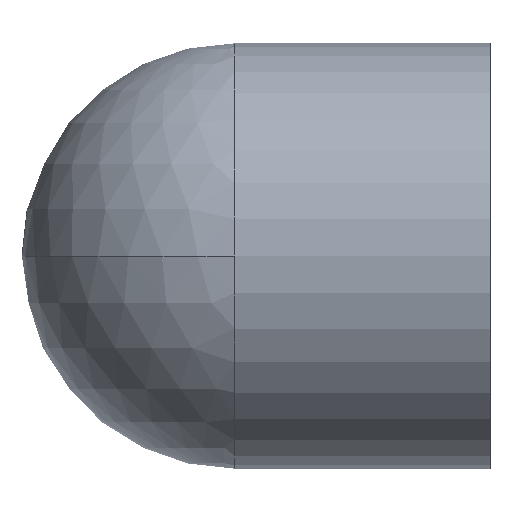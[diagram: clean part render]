
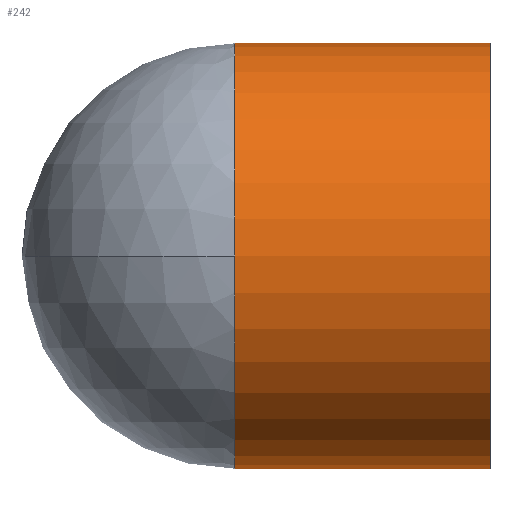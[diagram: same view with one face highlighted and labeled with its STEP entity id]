
A CAD part, left-side view. The second image highlights one B-rep face of the part: STEP entity #242.
In plain terms, the highlighted cylindrical face has radius 31.75 mm (diameter 63.5 mm), a partial arc.
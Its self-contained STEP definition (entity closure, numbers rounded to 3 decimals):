
#1 = FACE_OUTER_BOUND ( 'NONE', #193, .T. ) ;
#2 = EDGE_CURVE ( 'NONE', #80, #306, #103, .T. ) ;
#29 = VERTEX_POINT ( 'NONE', #240 ) ;
#30 = LINE ( 'NONE', #141, #175 ) ;
#31 = DIRECTION ( 'NONE',  ( 0., -1., 0. ) ) ;
#37 = EDGE_CURVE ( 'NONE', #253, #176, #285, .T. ) ;
#46 = ORIENTED_EDGE ( 'NONE', *, *, #2, .T. ) ;
#47 = AXIS2_PLACEMENT_3D ( 'NONE', #254, #155, #302 ) ;
#53 = EDGE_CURVE ( 'NONE', #29, #176, #195, .T. ) ;
#59 = DIRECTION ( 'NONE',  ( 0., -1., 0. ) ) ;
#61 = CIRCLE ( 'NONE', #227, 31.75 ) ;
#74 = AXIS2_PLACEMENT_3D ( 'NONE', #84, #31, #119 ) ;
#80 = VERTEX_POINT ( 'NONE', #230 ) ;
#84 = CARTESIAN_POINT ( 'NONE',  ( 6.35, 38.1, 0. ) ) ;
#87 = DIRECTION ( 'NONE',  ( 0., -1., 0. ) ) ;
#92 = CARTESIAN_POINT ( 'NONE',  ( 6.35, 0., -31.75 ) ) ;
#97 = ORIENTED_EDGE ( 'NONE', *, *, #53, .T. ) ;
#103 = CIRCLE ( 'NONE', #47, 31.75 ) ;
#111 = CARTESIAN_POINT ( 'NONE',  ( -25.4, 38.1, 0. ) ) ;
#119 = DIRECTION ( 'NONE',  ( 0., 0., -1. ) ) ;
#122 = DIRECTION ( 'NONE',  ( 0., -1., 0. ) ) ;
#123 = EDGE_CURVE ( 'NONE', #80, #253, #30, .T. ) ;
#130 = CARTESIAN_POINT ( 'NONE',  ( 6.35, 0., 0. ) ) ;
#133 = DIRECTION ( 'NONE',  ( 0., 0., -1. ) ) ;
#141 = CARTESIAN_POINT ( 'NONE',  ( 6.35, 38.1, 31.75 ) ) ;
#147 = ORIENTED_EDGE ( 'NONE', *, *, #210, .T. ) ;
#152 = ORIENTED_EDGE ( 'NONE', *, *, #37, .F. ) ;
#155 = DIRECTION ( 'NONE',  ( 0., -1., 0. ) ) ;
#163 = DIRECTION ( 'NONE',  ( 0., -1., 0. ) ) ;
#167 = CARTESIAN_POINT ( 'NONE',  ( 6.35, 38.1, 0. ) ) ;
#169 = DIRECTION ( 'NONE',  ( 0., 0., -1. ) ) ;
#175 = VECTOR ( 'NONE', #59, 1000. ) ;
#176 = VERTEX_POINT ( 'NONE', #92 ) ;
#190 = CARTESIAN_POINT ( 'NONE',  ( 6.35, 0., 31.75 ) ) ;
#193 = EDGE_LOOP ( 'NONE', ( #232, #46, #147, #97, #152 ) ) ;
#195 = LINE ( 'NONE', #303, #262 ) ;
#204 = AXIS2_PLACEMENT_3D ( 'NONE', #130, #87, #169 ) ;
#210 = EDGE_CURVE ( 'NONE', #306, #29, #61, .T. ) ;
#227 = AXIS2_PLACEMENT_3D ( 'NONE', #167, #122, #133 ) ;
#230 = CARTESIAN_POINT ( 'NONE',  ( 6.35, 38.1, 31.75 ) ) ;
#232 = ORIENTED_EDGE ( 'NONE', *, *, #123, .F. ) ;
#240 = CARTESIAN_POINT ( 'NONE',  ( 6.35, 38.1, -31.75 ) ) ;
#242 = ADVANCED_FACE ( 'NONE', ( #1 ), #268, .T. ) ;
#253 = VERTEX_POINT ( 'NONE', #190 ) ;
#254 = CARTESIAN_POINT ( 'NONE',  ( 6.35, 38.1, 0. ) ) ;
#262 = VECTOR ( 'NONE', #163, 1000. ) ;
#268 = CYLINDRICAL_SURFACE ( 'NONE', #74, 31.75 ) ;
#285 = CIRCLE ( 'NONE', #204, 31.75 ) ;
#302 = DIRECTION ( 'NONE',  ( 0., 0., -1. ) ) ;
#303 = CARTESIAN_POINT ( 'NONE',  ( 6.35, 38.1, -31.75 ) ) ;
#306 = VERTEX_POINT ( 'NONE', #111 ) ;
